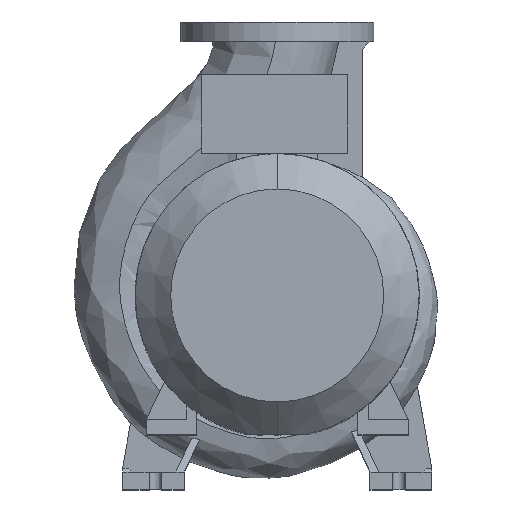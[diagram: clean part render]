
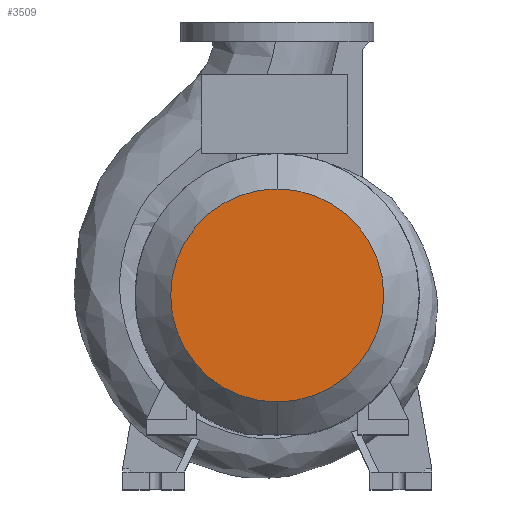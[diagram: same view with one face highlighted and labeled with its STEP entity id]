
A CAD part, top view. The second image highlights one B-rep face of the part: STEP entity #3509.
In plain terms, the highlighted planar face has unit normal (0, 0, 1) as drawn and (1, 0, 0) by its records, which use the part's own axes.
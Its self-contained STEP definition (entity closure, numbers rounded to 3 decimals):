
#1591 = CARTESIAN_POINT ( 'NONE',  ( 588., -68.906, 0. ) ) ;
#1822 = PLANE ( 'NONE',  #17009 ) ;
#3409 = FACE_OUTER_BOUND ( 'NONE', #17057, .T. ) ;
#3509 = ADVANCED_FACE ( 'NONE', ( #3409 ), #1822, .T. ) ;
#3792 = CARTESIAN_POINT ( 'NONE',  ( 588., 0., 0. ) ) ;
#5485 = CARTESIAN_POINT ( 'NONE',  ( 588., 137.813, 0. ) ) ;
#7654 = ORIENTED_EDGE ( 'NONE', *, *, #20108, .T. ) ;
#7771 = CIRCLE ( 'NONE', #11658, 137.813 ) ;
#8236 = CARTESIAN_POINT ( 'NONE',  ( 588., -137.813, 0. ) ) ;
#8461 = DIRECTION ( 'NONE',  ( 0., -1., 0. ) ) ;
#9208 = DIRECTION ( 'NONE',  ( 0., 1., 0. ) ) ;
#10161 = CARTESIAN_POINT ( 'NONE',  ( 588., 0., 0. ) ) ;
#10801 = DIRECTION ( 'NONE',  ( 1., 0., 0. ) ) ;
#11658 = AXIS2_PLACEMENT_3D ( 'NONE', #3792, #22289, #17190 ) ;
#14004 = EDGE_CURVE ( 'NONE', #18630, #23690, #7771, .T. ) ;
#15281 = CIRCLE ( 'NONE', #20271, 137.813 ) ;
#17009 = AXIS2_PLACEMENT_3D ( 'NONE', #1591, #10801, #9208 ) ;
#17057 = EDGE_LOOP ( 'NONE', ( #7654, #17895 ) ) ;
#17190 = DIRECTION ( 'NONE',  ( 0., -1., 0. ) ) ;
#17895 = ORIENTED_EDGE ( 'NONE', *, *, #14004, .T. ) ;
#18630 = VERTEX_POINT ( 'NONE', #5485 ) ;
#19560 = DIRECTION ( 'NONE',  ( 1., 0., 0. ) ) ;
#20108 = EDGE_CURVE ( 'NONE', #23690, #18630, #15281, .T. ) ;
#20271 = AXIS2_PLACEMENT_3D ( 'NONE', #10161, #19560, #8461 ) ;
#22289 = DIRECTION ( 'NONE',  ( 1., 0., 0. ) ) ;
#23690 = VERTEX_POINT ( 'NONE', #8236 ) ;
